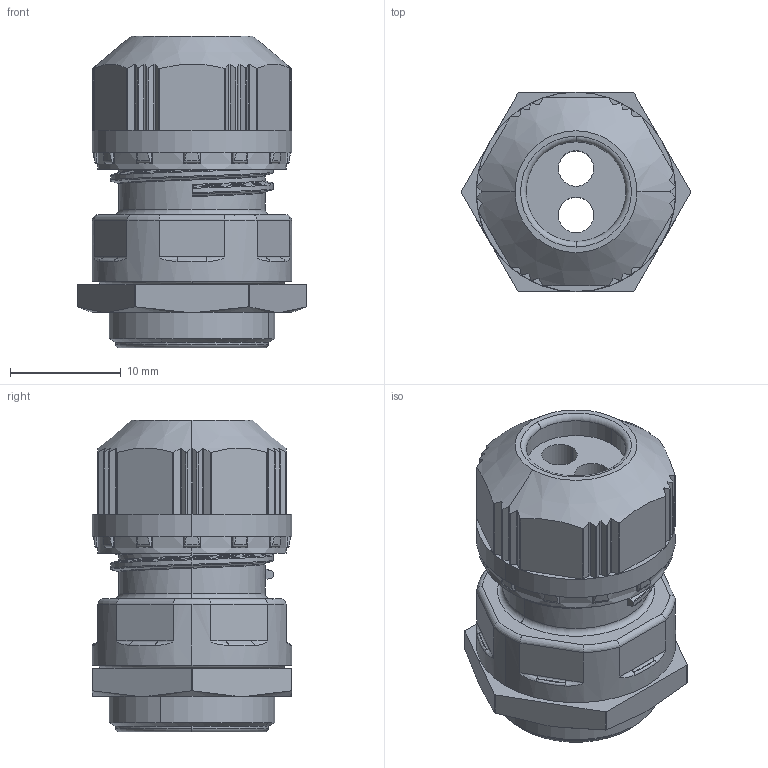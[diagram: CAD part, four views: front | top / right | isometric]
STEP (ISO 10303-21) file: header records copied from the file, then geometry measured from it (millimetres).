
FILE_DESCRIPTION(('Creo Elements/Direct Modeling STEP Export'),'2;1');
FILE_NAME('H15-0030-CL901-00_OA-W15M-302.stp','2017-11-24T15:24:57',(''),(''),'PTC Creo Elements/Direct Modeling STEP processor for AP214 (Solid Model)','PTC Creo Elements/Direct Modeling 19.0C 15-Aug-2015 (C) Parametric Technology GmbH','');
FILE_SCHEMA(('AUTOMOTIVE_DESIGN { 1 0 10303 214 1 1 1 1 }'));
Length unit declared in the file: millimetre
Products named in the file (4): OA-W15M; G15M-302; LN-15M; H15-0030-CL901-00_OA-W15M-302
Assembly tree (3 placements, depth 2):
  H15-0030-CL901-00_OA-W15M-302
    LN-15M
    G15M-302
    OA-W15M
Bounding box: 20.75 x 18 x 28.12 mm (x, y, z)
Volume: 5075.4 mm3; surface area: 4656.5 mm2
Topology: 3 solids, 3 shells, 392 faces, 1101 edges, 726 vertices
Faces by surface type: cylinder 145, plane 127, torus 62, cone 36, bspline 22
Entity records: 19473 total; most frequent: CARTESIAN_POINT 9949, ORIENTED_EDGE 2200, DIRECTION 1705, EDGE_CURVE 1100, VERTEX_POINT 726, AXIS2_PLACEMENT_3D 682, EDGE_LOOP 412, FACE_OUTER_BOUND 392
